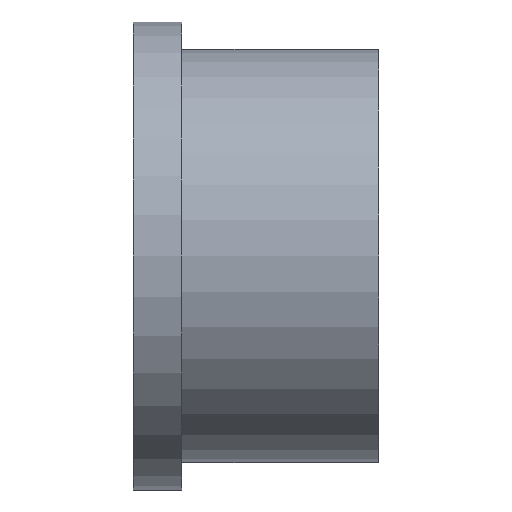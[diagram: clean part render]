
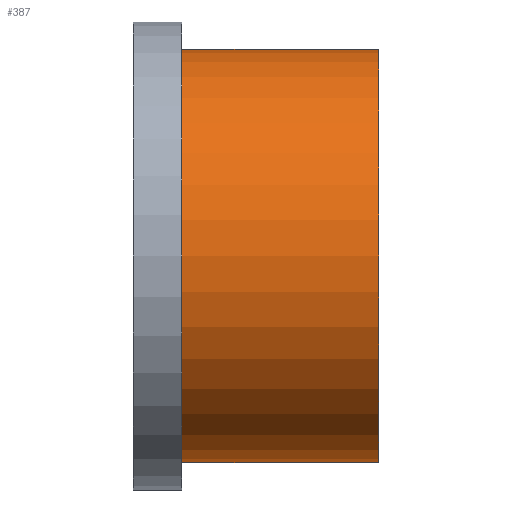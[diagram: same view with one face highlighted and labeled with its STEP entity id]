
A CAD part, front view. The second image highlights one B-rep face of the part: STEP entity #387.
In plain terms, the highlighted cylindrical face has radius 64 mm (diameter 128 mm), a partial arc.
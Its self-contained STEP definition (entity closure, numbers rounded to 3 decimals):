
#2 = DIRECTION ( 'NONE',  ( -1., 0., 0. ) ) ;
#6 = CARTESIAN_POINT ( 'NONE',  ( 0., 0., -64. ) ) ;
#30 = VERTEX_POINT ( 'NONE', #288 ) ;
#33 = CARTESIAN_POINT ( 'NONE',  ( 76., 0., -64. ) ) ;
#37 = CIRCLE ( 'NONE', #289, 64. ) ;
#44 = LINE ( 'NONE', #6, #307 ) ;
#80 = VERTEX_POINT ( 'NONE', #33 ) ;
#130 = CARTESIAN_POINT ( 'NONE',  ( 76., 0., 0. ) ) ;
#132 = DIRECTION ( 'NONE',  ( -1., 0., 0. ) ) ;
#134 = CIRCLE ( 'NONE', #189, 64. ) ;
#135 = DIRECTION ( 'NONE',  ( 0., 0., 1. ) ) ;
#177 = CARTESIAN_POINT ( 'NONE',  ( 0., 0., 64. ) ) ;
#181 = CYLINDRICAL_SURFACE ( 'NONE', #315, 64. ) ;
#189 = AXIS2_PLACEMENT_3D ( 'NONE', #407, #405, #402 ) ;
#222 = CARTESIAN_POINT ( 'NONE',  ( 76., 0., 64. ) ) ;
#223 = CARTESIAN_POINT ( 'NONE',  ( 0., 0., 0. ) ) ;
#228 = DIRECTION ( 'NONE',  ( -1., 0., 0. ) ) ;
#262 = EDGE_CURVE ( 'NONE', #263, #30, #381, .T. ) ;
#263 = VERTEX_POINT ( 'NONE', #222 ) ;
#288 = CARTESIAN_POINT ( 'NONE',  ( 15., 0., 64. ) ) ;
#289 = AXIS2_PLACEMENT_3D ( 'NONE', #130, #132, #135 ) ;
#306 = CARTESIAN_POINT ( 'NONE',  ( 15., 0., -64. ) ) ;
#307 = VECTOR ( 'NONE', #2, 1000. ) ;
#308 = ORIENTED_EDGE ( 'NONE', *, *, #262, .T. ) ;
#315 = AXIS2_PLACEMENT_3D ( 'NONE', #223, #228, #354 ) ;
#354 = DIRECTION ( 'NONE',  ( 0., 0., 1. ) ) ;
#376 = DIRECTION ( 'NONE',  ( -1., 0., 0. ) ) ;
#381 = LINE ( 'NONE', #177, #477 ) ;
#387 = ADVANCED_FACE ( 'NONE', ( #457 ), #181, .T. ) ;
#392 = ORIENTED_EDGE ( 'NONE', *, *, #492, .F. ) ;
#402 = DIRECTION ( 'NONE',  ( 0., 0., 1. ) ) ;
#405 = DIRECTION ( 'NONE',  ( -1., 0., 0. ) ) ;
#407 = CARTESIAN_POINT ( 'NONE',  ( 15., 0., 0. ) ) ;
#456 = ORIENTED_EDGE ( 'NONE', *, *, #473, .T. ) ;
#457 = FACE_OUTER_BOUND ( 'NONE', #578, .T. ) ;
#460 = ORIENTED_EDGE ( 'NONE', *, *, #560, .F. ) ;
#473 = EDGE_CURVE ( 'NONE', #80, #263, #37, .T. ) ;
#477 = VECTOR ( 'NONE', #376, 1000. ) ;
#492 = EDGE_CURVE ( 'NONE', #547, #30, #134, .T. ) ;
#547 = VERTEX_POINT ( 'NONE', #306 ) ;
#560 = EDGE_CURVE ( 'NONE', #80, #547, #44, .T. ) ;
#578 = EDGE_LOOP ( 'NONE', ( #460, #456, #308, #392 ) ) ;
